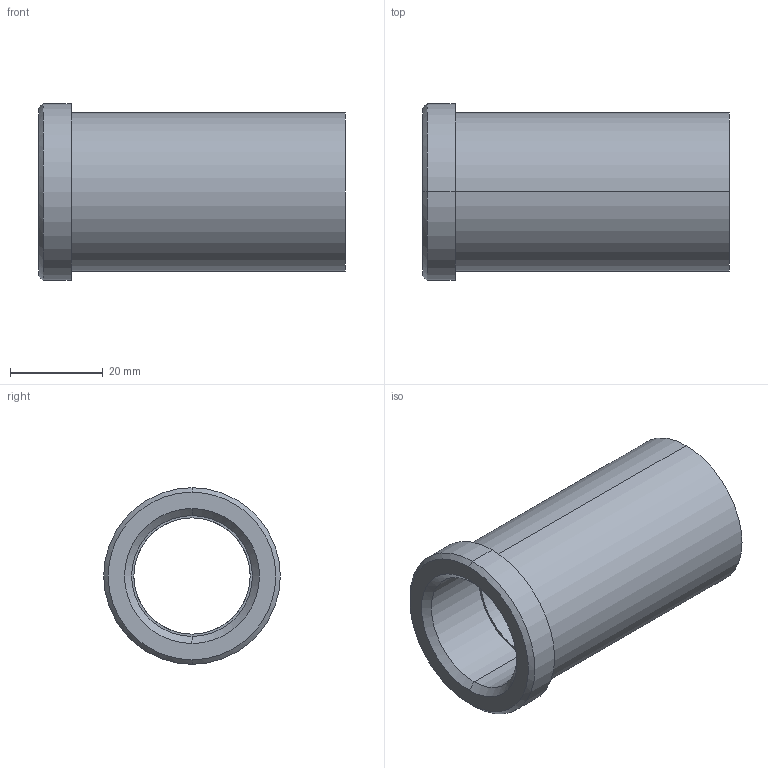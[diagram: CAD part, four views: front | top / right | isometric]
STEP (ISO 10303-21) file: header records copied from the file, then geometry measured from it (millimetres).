
FILE_DESCRIPTION(('CATIA V5 STEP Exchange'),'2;1');
FILE_NAME('C:\Users\Utente\Desktop\IO LAVORO\3D X SITO CF\X SITO\PLASTICA\353\353-25X66.stp','2021-05-12T18:44:09+00:00',('none'),('none'),'CATIA Version 5 Release 20 GA (IN-10)','CATIA V5 STEP AP203','none');
FILE_SCHEMA(('CONFIG_CONTROL_DESIGN'));
Length unit declared in the file: millimetre
Products named in the file (1): 353-25X66
Bounding box: 66 x 38 x 38 mm (x, y, z)
Volume: 28243.6 mm3; surface area: 13452.4 mm2
Topology: 1 solids, 1 shells, 18 faces, 58 edges, 44 vertices
Faces by surface type: cylinder 8, plane 4, cone 4, torus 2
Entity records: 840 total; most frequent: CARTESIAN_POINT 289, ORIENTED_EDGE 116, DIRECTION 82, EDGE_CURVE 58, AXIS2_PLACEMENT_3D 53, VERTEX_POINT 44, CIRCLE 34, EDGE_LOOP 22
